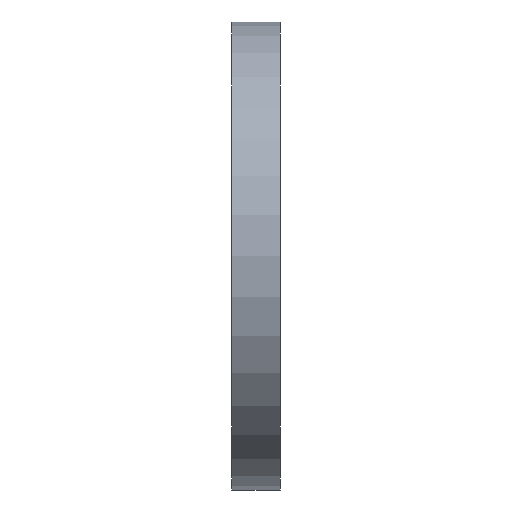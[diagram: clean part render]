
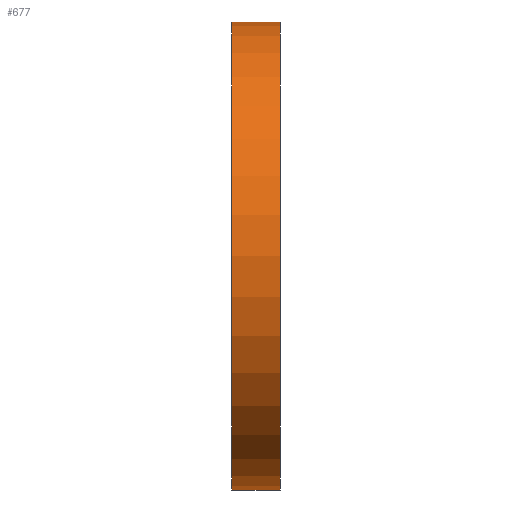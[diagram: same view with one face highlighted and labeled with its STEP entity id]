
A CAD part, left-side view. The second image highlights one B-rep face of the part: STEP entity #677.
In plain terms, the highlighted cylindrical face has radius 135 mm (diameter 270 mm), a partial arc.
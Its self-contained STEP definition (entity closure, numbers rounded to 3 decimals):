
#14 = CARTESIAN_POINT ( 'NONE',  ( 0., 34.695, -135. ) ) ;
#163 = DIRECTION ( 'NONE',  ( 0., 0., 1. ) ) ;
#199 = EDGE_CURVE ( 'NONE', #356, #548, #562, .T. ) ;
#200 = VERTEX_POINT ( 'NONE', #288 ) ;
#211 = CARTESIAN_POINT ( 'NONE',  ( 0., 34.695, 0. ) ) ;
#218 = DIRECTION ( 'NONE',  ( 0., 1., 0. ) ) ;
#222 = FACE_OUTER_BOUND ( 'NONE', #398, .T. ) ;
#246 = ORIENTED_EDGE ( 'NONE', *, *, #396, .T. ) ;
#266 = DIRECTION ( 'NONE',  ( 0., 1., 0. ) ) ;
#274 = AXIS2_PLACEMENT_3D ( 'NONE', #276, #539, #654 ) ;
#276 = CARTESIAN_POINT ( 'NONE',  ( 0., 28., 0. ) ) ;
#282 = DIRECTION ( 'NONE',  ( 0., 0., 1. ) ) ;
#288 = CARTESIAN_POINT ( 'NONE',  ( 0., 0., -135. ) ) ;
#317 = CARTESIAN_POINT ( 'NONE',  ( 0., 28., -135. ) ) ;
#342 = CARTESIAN_POINT ( 'NONE',  ( 0., 0., 135. ) ) ;
#356 = VERTEX_POINT ( 'NONE', #342 ) ;
#384 = ORIENTED_EDGE ( 'NONE', *, *, #829, .F. ) ;
#395 = VECTOR ( 'NONE', #420, 1000. ) ;
#396 = EDGE_CURVE ( 'NONE', #200, #356, #581, .T. ) ;
#398 = EDGE_LOOP ( 'NONE', ( #639, #246, #621, #384 ) ) ;
#420 = DIRECTION ( 'NONE',  ( 0., 1., 0. ) ) ;
#428 = CARTESIAN_POINT ( 'NONE',  ( 0., 0., 0. ) ) ;
#464 = LINE ( 'NONE', #14, #796 ) ;
#483 = VERTEX_POINT ( 'NONE', #317 ) ;
#487 = DIRECTION ( 'NONE',  ( 0., 1., 0. ) ) ;
#505 = CARTESIAN_POINT ( 'NONE',  ( 0., 34.695, 135. ) ) ;
#539 = DIRECTION ( 'NONE',  ( 0., 1., 0. ) ) ;
#548 = VERTEX_POINT ( 'NONE', #645 ) ;
#562 = LINE ( 'NONE', #505, #395 ) ;
#581 = CIRCLE ( 'NONE', #839, 135. ) ;
#593 = CIRCLE ( 'NONE', #274, 135. ) ;
#621 = ORIENTED_EDGE ( 'NONE', *, *, #199, .T. ) ;
#639 = ORIENTED_EDGE ( 'NONE', *, *, #756, .F. ) ;
#645 = CARTESIAN_POINT ( 'NONE',  ( 0., 28., 135. ) ) ;
#654 = DIRECTION ( 'NONE',  ( 0., 0., 1. ) ) ;
#677 = ADVANCED_FACE ( 'NONE', ( #222 ), #745, .T. ) ;
#705 = AXIS2_PLACEMENT_3D ( 'NONE', #211, #266, #282 ) ;
#745 = CYLINDRICAL_SURFACE ( 'NONE', #705, 135. ) ;
#756 = EDGE_CURVE ( 'NONE', #200, #483, #464, .T. ) ;
#796 = VECTOR ( 'NONE', #218, 1000. ) ;
#829 = EDGE_CURVE ( 'NONE', #483, #548, #593, .T. ) ;
#839 = AXIS2_PLACEMENT_3D ( 'NONE', #428, #487, #163 ) ;
